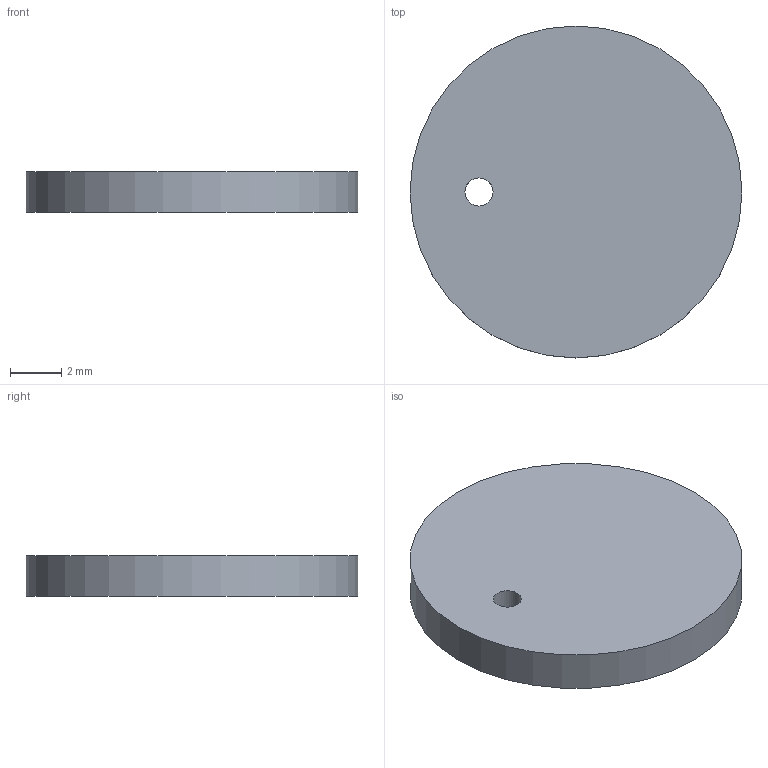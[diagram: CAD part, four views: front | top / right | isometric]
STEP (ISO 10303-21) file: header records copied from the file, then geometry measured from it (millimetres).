
FILE_DESCRIPTION(('Open CASCADE Model'),'2;1');
FILE_NAME('Open CASCADE Shape Model','2026-11-10T21:02:46',('Author'),( 'Open CASCADE'),'Open CASCADE STEP processor 7.9','Open CASCADE 7.9' ,'Unknown');
FILE_SCHEMA(('AUTOMOTIVE_DESIGN { 1 0 10303 214 1 1 1 1 }'));
Length unit declared in the file: millimetre
Products named in the file (1): Open CASCADE STEP translator 7.9 12
Bounding box: 13 x 13 x 1.6 mm (x, y, z)
Volume: 210.9 mm3; surface area: 334.4 mm2
Topology: 1 solids, 1 shells, 4 faces, 6 edges, 4 vertices
Faces by surface type: cylinder 2, plane 2
Full cylindrical faces by diameter (mm): 1.1 x1, 13 x1
Entity records: 192 total; most frequent: CARTESIAN_POINT 39, DIRECTION 30, ORIENTED_EDGE 12, PCURVE 12, DEFINITIONAL_REPRESENTATION 12, LINE 10, VECTOR 10, AXIS2_PLACEMENT_3D 9
